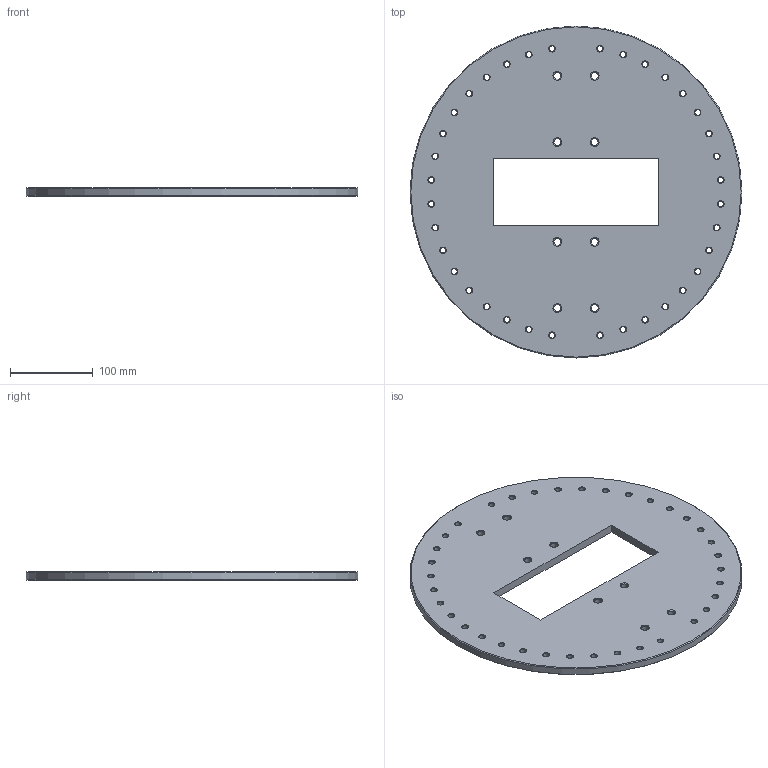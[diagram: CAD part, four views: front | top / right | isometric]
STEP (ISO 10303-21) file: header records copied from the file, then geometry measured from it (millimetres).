
FILE_DESCRIPTION(/* description */ (''),/* implementation_level */ '2;1');
FILE_NAME(/* name */ 'TRAYLOADER.107.stp',/* time_stamp */ '2025-05-12T16:11:35+02:00',/* author */ (''),/* organization */ (''),/* preprocessor_version */ 'ST-DEVELOPER v19.4',/* originating_system */ 'SIEMENS PLM Software NX2306.5001',/* authorisation */ '');
FILE_SCHEMA (('AP203_CONFIGURATION_CONTROLLED_3D_DESIGN_OF_MECHANICAL_PARTS_AND_ASSEMBLIES_MIM_LF { 1 0 10303 403 2 1 2}'));
Length unit declared in the file: millimetre
Products named in the file (1): TRAYLOADER.107_objects
Bounding box: 400 x 400 x 10 mm (x, y, z)
Volume: 1077245.3 mm3; surface area: 241586.8 mm2
Topology: 1 solids, 1 shells, 141 faces, 372 edges, 233 vertices
Faces by surface type: cone 90, cylinder 45, plane 6
Full cylindrical faces by diameter (mm): 6.8 x36, 8.5 x8, 400 x1
Entity records: 3572 total; most frequent: DIRECTION 656, CARTESIAN_POINT 522, ORIENTED_EDGE 384, EDGE_LOOP 366, FACE_BOUND 362, AXIS2_PLACEMENT_3D 322, EDGE_CURVE 192, VERTEX_POINT 188
